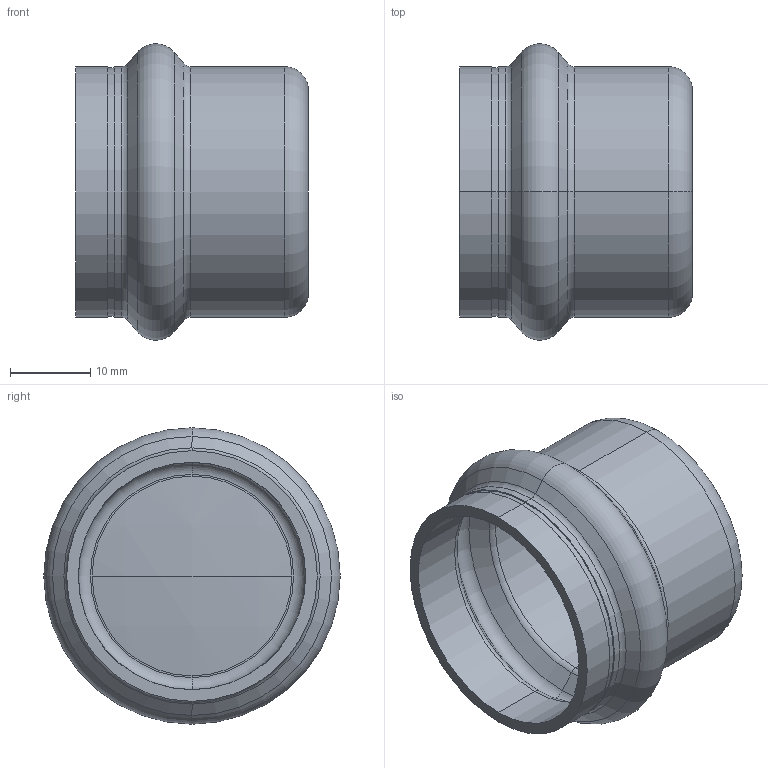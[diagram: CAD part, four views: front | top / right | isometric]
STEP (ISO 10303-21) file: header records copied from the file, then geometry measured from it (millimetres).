
FILE_DESCRIPTION (( 'STEP AP203' ), '1' );
FILE_NAME ('SP5301 28.STEP', '2017-04-24T09:27:51', ( '' ), ( '' ), 'SwSTEP 2.0', 'SolidWorks 2016', '' );
FILE_SCHEMA (( 'CONFIG_CONTROL_DESIGN' ));
Length unit declared in the file: millimetre
Products named in the file (1): SP5301 28
Bounding box: 29 x 36.9 x 36.9 mm (x, y, z)
Volume: 5167.2 mm3; surface area: 7286.5 mm2
Topology: 1 solids, 1 shells, 50 faces, 102 edges, 58 vertices
Faces by surface type: torus 20, cylinder 14, cone 8, sphere 4, plane 4
Entity records: 1403 total; most frequent: DIRECTION 284, CARTESIAN_POINT 211, ORIENTED_EDGE 204, AXIS2_PLACEMENT_3D 131, EDGE_CURVE 102, CIRCLE 80, VERTEX_POINT 58, EDGE_LOOP 54
